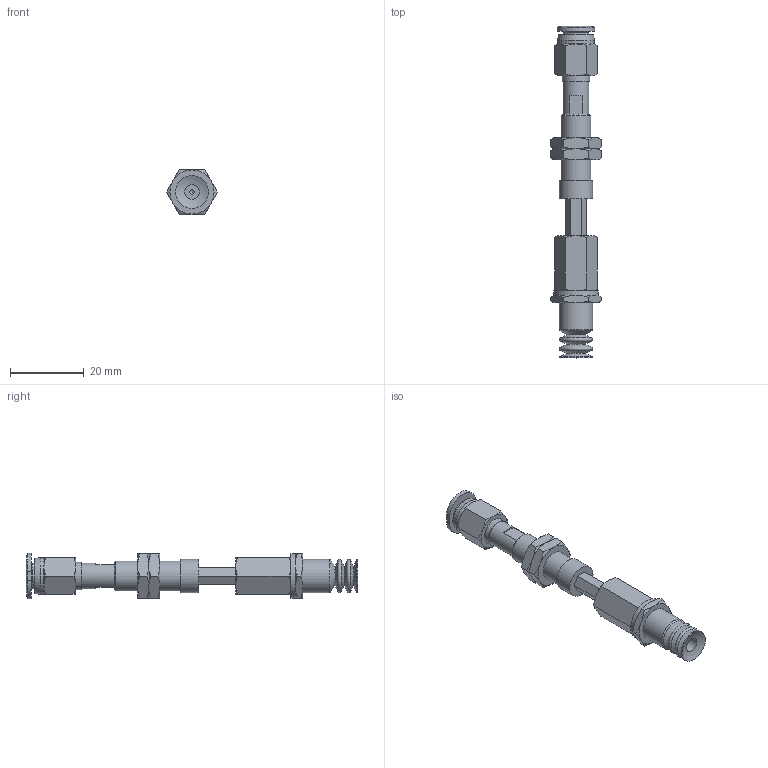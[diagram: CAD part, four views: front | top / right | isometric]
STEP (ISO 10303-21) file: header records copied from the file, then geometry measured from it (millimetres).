
FILE_DESCRIPTION(('STEP AP203'),'1');
FILE_NAME('-O.stp','2025-08-27T01:47:10',(' '),(' '),'Spatial InterOp 3D',' ',' ');
FILE_SCHEMA(('CONFIG_CONTROL_DESIGN'));
Length unit declared in the file: millimetre
Products named in the file (8): BNABPCTH-10-10-※-O; ADAPTER; NAPCTH-10-10-MBODY; Adapter_napc-10-T; Nut napc_h-10-10; NAPCTH-10-10-FBODY; BPCG-10-※; PC-C_06-M5
Assembly tree (8 placements, depth 2):
  BNABPCTH-10-10-※-O
    ADAPTER
    NAPCTH-10-10-MBODY
    Adapter_napc-10-T
    Nut napc_h-10-10  x2
    NAPCTH-10-10-FBODY
    BPCG-10-※
    PC-C_06-M5
Bounding box: 13.86 x 90.18 x 12.4 mm (x, y, z)
Volume: 4461.3 mm3; surface area: 5971.2 mm2
Topology: 7 solids, 10 shells, 203 faces, 418 edges, 247 vertices
Faces by surface type: cone 80, plane 78, cylinder 26, torus 10, bspline 4, revolution 3, sphere 2
Full cylindrical faces by diameter (mm): 1.25 x1, 4 x3, 4.134 x2, 5 x6, 7 x2, 7.188 x2, 7.4 x1, 8 x1, 8.2 x1, 9 x3, 10 x1, 12 x1
Entity records: 5416 total; most frequent: CARTESIAN_POINT 1605, DIRECTION 703, ORIENTED_EDGE 618, EDGE_CURVE 311, AXIS2_PLACEMENT_3D 310, EDGE_LOOP 258, VERTEX_POINT 216, FACE_OUTER_BOUND 155
